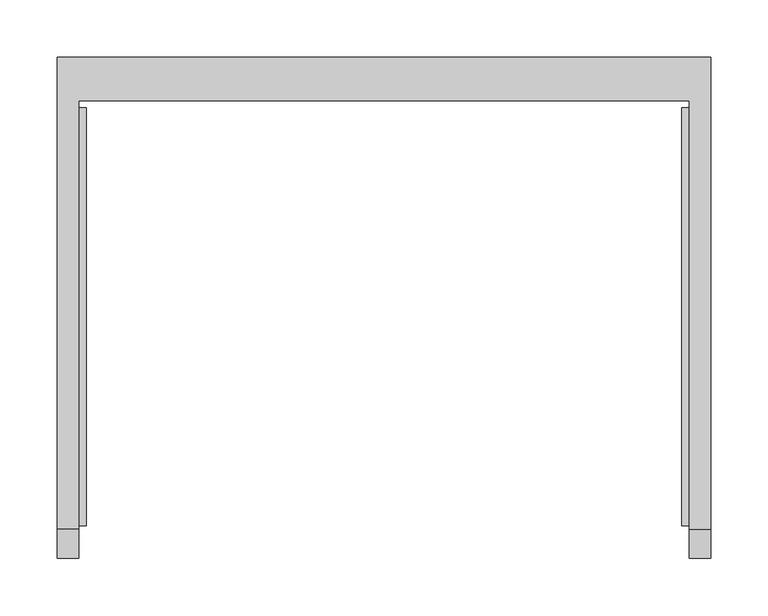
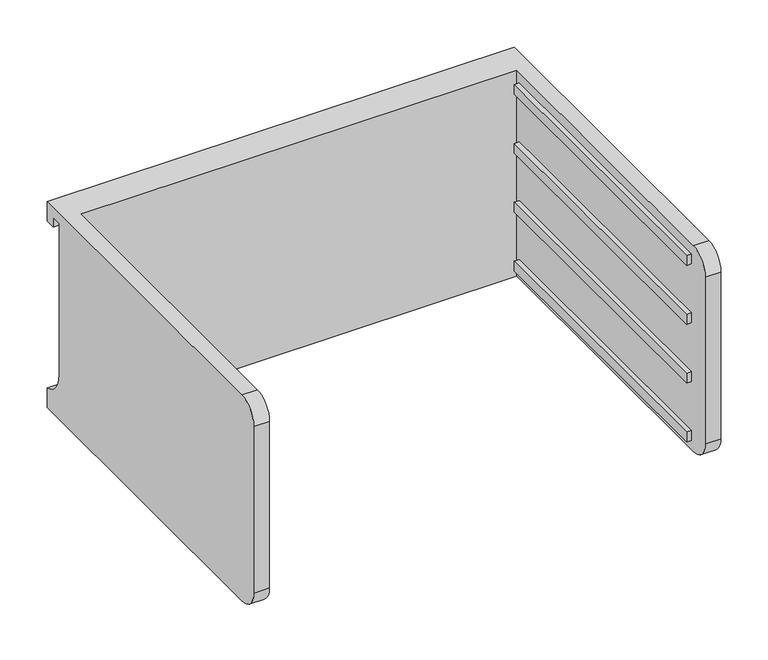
"""IFC4 building model written with IfcOpenShell, lengths in millimetres: furniture geometry."""

from ifc_helpers import new_model, si_unit, frame, origin, place, context, project, spatial, polyline, circle_curve, outline, extrude, source, transform, mapped, element, save
from ifc_brep_helpers import plane_surface, cylinder_surface, revolved_surface, advanced_brep


def furniture_34c58b51(model_context):
    return source(origin(), model_context, "Body", "SolidModel", [
        advanced_brep(
        [(-171.7622951, -331.6523397, 795.3502), (-171.7622951, -357.0523397, 769.9502), (-171.7622951, -357.0523397, 554.0502), (-171.7622951, -331.6523397, 528.6502), (-171.7622951, 43.0421197, 528.6502), (-171.7622951, 43.0421197, 795.3502), (-190.8122951, -331.6523397, 528.6502), (-190.8122951, -357.0523397, 554.0502), (-190.8122951, -357.0523397, 769.9502), (-190.8122951, -331.6523397, 795.3502), (-190.8122951, 81.0976603, 795.3502), (-190.8122951, 81.0976603, 769.9502), (-190.8122951, 68.4421197, 769.9502), (-190.8122951, 68.4421197, 782.6502), (-190.8122951, 55.7421197, 782.6502), (-190.8122951, 55.7421197, 586.59522), (-190.8122951, 81.0976603, 554.0502), (-190.8122951, 81.0976603, 528.6502), (380.6877049, 81.0976603, 528.6502), (380.6877049, -331.6523397, 528.6502), (361.6377049, -331.6523397, 528.6502), (361.6377049, 43.0421197, 528.6502), (361.6377049, 43.0421197, 795.3502), (361.6377049, -331.6523397, 795.3502), (380.6877049, -331.6523397, 795.3502), (380.6877049, 81.0976603, 795.3502), (380.6877049, 81.0976603, 554.0502), (380.6877049, 55.7421197, 586.59522), (380.6877049, 55.7421197, 782.6502), (380.6877049, 68.4421197, 782.6502), (380.6877049, 68.4421197, 769.9502), (380.6877049, 81.0976603, 769.9502), (380.6877049, -357.0523397, 769.9502), (380.6877049, -357.0523397, 554.0502), (361.6377049, -357.0523397, 554.0502), (361.6377049, -357.0523397, 769.9502)],
        [
            (0, 1, circle_curve(frame((-171.7622951, -331.6523397, 769.9502), z_axis=(1.0, 0.0, 0.0), x_axis=(0.0, 0.0, 1.0)), 25.4)),
            (1, 2),
            (2, 3, circle_curve(frame((-171.7622951, -331.6523397, 554.0502), z_axis=(1.0, 0.0, 0.0), x_axis=(0.0, 0.0, 1.0)), 25.4)),
            (3, 4),
            (4, 5),
            (5, 0),
            (6, 7, circle_curve(frame((-190.8122951, -331.6523397, 554.0502), z_axis=(-1.0, 0.0, 0.0), x_axis=(0.0, 0.0, 1.0)), 25.4)),
            (7, 8),
            (8, 9, circle_curve(frame((-190.8122951, -331.6523397, 769.9502), z_axis=(-1.0, 0.0, 0.0), x_axis=(0.0, 0.0, 1.0)), 25.4)),
            (9, 10),
            (10, 11),
            (11, 12),
            (12, 13),
            (13, 14),
            (14, 15),
            (15, 16, circle_curve(frame((-190.8122951, 89.3064162, 586.59522), z_axis=(1.0, 0.0, 0.0), x_axis=(0.0, 0.0, 1.0)), 33.5642965)),
            (16, 17),
            (17, 6),
            (0, 9),
            (8, 1),
            (7, 2),
            (6, 3),
            (17, 18),
            (18, 19),
            (19, 20),
            (20, 21),
            (21, 4),
            (5, 22),
            (22, 23),
            (23, 24),
            (24, 25),
            (25, 10),
            (18, 26),
            (26, 27, circle_curve(frame((380.6877049, 89.3064162, 586.59522), z_axis=(-1.0, 0.0, 0.0), x_axis=(0.0, 0.0, 1.0)), 33.5642965)),
            (27, 28),
            (28, 29),
            (29, 30),
            (30, 31),
            (31, 25),
            (24, 32, circle_curve(frame((380.6877049, -331.6523397, 769.9502), z_axis=(1.0, 0.0, 0.0), x_axis=(0.0, 0.0, 1.0)), 25.4)),
            (32, 33),
            (33, 19, circle_curve(frame((380.6877049, -331.6523397, 554.0502), z_axis=(1.0, 0.0, 0.0), x_axis=(0.0, 0.0, 1.0)), 25.4)),
            (16, 26),
            (15, 27),
            (14, 28),
            (13, 29),
            (12, 30),
            (11, 31),
            (21, 22),
            (20, 34, circle_curve(frame((361.6377049, -331.6523397, 554.0502), z_axis=(-1.0, 0.0, 0.0), x_axis=(0.0, 0.0, 1.0)), 25.4)),
            (34, 35),
            (35, 23, circle_curve(frame((361.6377049, -331.6523397, 769.9502), z_axis=(-1.0, 0.0, 0.0), x_axis=(0.0, 0.0, 1.0)), 25.4)),
            (35, 32),
            (34, 33),
        ],
        [
            plane_surface(frame((-171.7622951, -331.6523397, 795.3502), z_axis=(1.0, 0.0, 0.0), x_axis=(0.0, -1.0, 0.0))),
            plane_surface(frame((-190.8122951, -331.6523397, 795.3502), z_axis=(-1.0, 0.0, 0.0), x_axis=(0.0, 1.0, 0.0))),
            cylinder_surface(frame((-190.8122951, -331.6523397, 769.9502), z_axis=(1.0, 0.0, 0.0), x_axis=(0.0, 0.0, 1.0)), 25.4),
            plane_surface(frame((-171.7622951, -357.0523397, 769.9502), z_axis=(0.0, -1.0, 0.0), x_axis=(-1.0, 0.0, 0.0))),
            cylinder_surface(frame((-190.8122951, -331.6523397, 554.0502), z_axis=(1.0, 0.0, 0.0), x_axis=(0.0, 0.0, 1.0)), 25.4),
            plane_surface(frame((-171.7622951, -331.6523397, 528.6502), z_axis=(0.0, 0.0, -1.0), x_axis=(-1.0, 0.0, 0.0))),
            plane_surface(frame((-171.7622951, 43.0421197, 795.3502), z_axis=(0.0, 0.0, 1.0), x_axis=(-1.0, 0.0, 0.0))),
            plane_surface(frame((380.6877049, 81.0976603, 554.0502), z_axis=(1.0, 0.0, 0.0), x_axis=(0.0, 0.0, 1.0))),
            plane_surface(frame((380.6877049, 81.0976603, 528.6502), z_axis=(0.0, 1.0, 0.0), x_axis=(-1.0, 0.0, 0.0))),
            revolved_surface(polyline([(-190.8122951, 89.3064162, 620.1595165), (380.68770489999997, 89.3064162, 620.1595165)]), (-190.8122951, 89.3064162, 586.59522), (-1.0, 0.0, 0.0)),
            plane_surface(frame((380.6877049, 55.7421197, 586.59522), z_axis=(0.0, 1.0, 0.0), x_axis=(-1.0, 0.0, 0.0))),
            plane_surface(frame((380.6877049, 55.7421197, 782.6502), z_axis=(0.0, 0.0, -1.0), x_axis=(-1.0, 0.0, 0.0))),
            plane_surface(frame((380.6877049, 68.4421197, 782.6502), z_axis=(0.0, -1.0, 0.0), x_axis=(-1.0, 0.0, 0.0))),
            plane_surface(frame((380.6877049, 68.4421197, 769.9502), z_axis=(0.0, 0.0, -1.0), x_axis=(-1.0, 0.0, 0.0))),
            plane_surface(frame((380.6877049, 81.0976603, 769.9502), z_axis=(0.0, 1.0, 0.0), x_axis=(-1.0, 0.0, 0.0))),
            plane_surface(frame((380.6877049, 43.0421197, 795.3502), z_axis=(0.0, -1.0, 0.0), x_axis=(-1.0, 0.0, 0.0))),
            plane_surface(frame((361.6377049, -331.6523397, 795.3502), z_axis=(-1.0, 0.0, 0.0), x_axis=(0.0, 1.0, 0.0))),
            cylinder_surface(frame((361.6377049, -331.6523397, 769.9502), z_axis=(1.0, 0.0, 0.0), x_axis=(0.0, 0.0, 1.0)), 25.4),
            plane_surface(frame((380.6877049, -357.0523397, 769.9502), z_axis=(0.0, -1.0, 0.0), x_axis=(-1.0, 0.0, 0.0))),
            cylinder_surface(frame((361.6377049, -331.6523397, 554.0502), z_axis=(1.0, 0.0, 0.0), x_axis=(0.0, 0.0, 1.0)), 25.4),
        ],
        [
            (0, [[1, 2, 3, 4, 5, 6]]),
            (1, [[7, 8, 9, 10, 11, 12, 13, 14, 15, 16, 17, 18]]),
            (2, [[-1, 19, -9, 20]]),
            (3, [[-2, -20, -8, 21]]),
            (4, [[-3, -21, -7, 22]]),
            (5, [[-4, -22, -18, 23, 24, 25, 26, 27]]),
            (6, [[-6, 28, 29, 30, 31, 32, -10, -19]]),
            (7, [[-24, 33, 34, 35, 36, 37, 38, 39, -31, 40, 41, 42]]),
            (8, [[-33, -23, -17, 43]]),
            (9, [[-34, -43, -16, 44]]),
            (10, [[-35, -44, -15, 45]]),
            (11, [[-36, -45, -14, 46]]),
            (12, [[-37, -46, -13, 47]]),
            (13, [[-38, -47, -12, 48]]),
            (14, [[-39, -48, -11, -32]]),
            (15, [[-5, -27, 49, -28]]),
            (16, [[-29, -49, -26, 50, 51, 52]]),
            (17, [[-40, -30, -52, 53]]),
            (18, [[-41, -53, -51, 54]]),
            (19, [[-42, -54, -50, -25]]),
        ],
    ),
        extrude(outline(polyline([(355.2877049, -328.4773397), (355.2877049, 36.6921197), (361.6377049, 36.6921197), (361.6377049, -328.4773397), (355.2877049, -328.4773397)])), frame((0.0, 0.0, 617.5502), z_axis=(0.0, 0.0, 1.0), x_axis=(1.0, 0.0, 0.0)), (0.0, 0.0, 1.0), 12.7),
        extrude(outline(polyline([(355.2877049, -328.4773397), (355.2877049, 36.6921197), (361.6377049, 36.6921197), (361.6377049, -328.4773397), (355.2877049, -328.4773397)])), frame((0.0, 0.0, 693.7502), z_axis=(0.0, 0.0, 1.0), x_axis=(1.0, 0.0, 0.0)), (0.0, 0.0, 1.0), 12.7),
        extrude(outline(polyline([(355.2877049, -328.4773397), (355.2877049, 36.6921197), (361.6377049, 36.6921197), (361.6377049, -328.4773397), (355.2877049, -328.4773397)])), frame((0.0, 0.0, 769.9502), z_axis=(0.0, 0.0, 1.0), x_axis=(1.0, 0.0, 0.0)), (0.0, 0.0, 1.0), 12.7),
        extrude(outline(polyline([(355.2877049, -328.4773397), (355.2877049, 36.6921197), (361.6377049, 36.6921197), (361.6377049, -328.4773397), (355.2877049, -328.4773397)])), frame((0.0, 0.0, 541.3502), z_axis=(0.0, 0.0, 1.0), x_axis=(1.0, 0.0, 0.0)), (0.0, 0.0, 1.0), 12.7),
        extrude(outline(polyline([(-171.7622951, -328.4773397), (-171.7622951, 36.6921197), (-165.4122951, 36.6921197), (-165.4122951, -328.4773397), (-171.7622951, -328.4773397)])), frame((0.0, 0.0, 617.5502), z_axis=(0.0, 0.0, 1.0), x_axis=(1.0, 0.0, 0.0)), (0.0, 0.0, 1.0), 12.7),
        extrude(outline(polyline([(-171.7622951, -328.4773397), (-171.7622951, 36.6921197), (-165.4122951, 36.6921197), (-165.4122951, -328.4773397), (-171.7622951, -328.4773397)])), frame((0.0, 0.0, 693.7502), z_axis=(0.0, 0.0, 1.0), x_axis=(1.0, 0.0, 0.0)), (0.0, 0.0, 1.0), 12.7),
        extrude(outline(polyline([(-171.7622951, -328.4773397), (-171.7622951, 36.6921197), (-165.4122951, 36.6921197), (-165.4122951, -328.4773397), (-171.7622951, -328.4773397)])), frame((0.0, 0.0, 769.9502), z_axis=(0.0, 0.0, 1.0), x_axis=(1.0, 0.0, 0.0)), (0.0, 0.0, 1.0), 12.7),
        extrude(outline(polyline([(-171.7622951, -328.4773397), (-171.7622951, 36.6921197), (-165.4122951, 36.6921197), (-165.4122951, -328.4773397), (-171.7622951, -328.4773397)])), frame((0.0, 0.0, 541.3502), z_axis=(0.0, 0.0, 1.0), x_axis=(1.0, 0.0, 0.0)), (0.0, 0.0, 1.0), 12.7),
    ])


if __name__ == "__main__":
    model = new_model("IFC4")
    model_context = context("Model", 3, world=origin())
    ifc_project = project(units=[si_unit("LENGTHUNIT", "METRE", prefix="MILLI")], contexts=[model_context])
    site = spatial("IfcSite", under=ifc_project)
    building = spatial("IfcBuilding", under=site)
    placement = place(None, origin())
    furniture_shape = furniture_34c58b51(model_context)
    element("IfcFurniture", 1, ObjectType="HermanMiller_CoStruc_CO205_CFrame : 10\"H x 17\"D x 22\"W", at=placement, inside=building, context=model_context, shape_type="MappedRepresentation", body=[
        mapped(furniture_shape, transform((0.0, 0.0, 0.0), x_axis=(1.0, 0.0, 0.0), y_axis=(0.0, 1.0, 0.0), z_axis=(0.0, 0.0, 1.0))),
    ])
    save(model, "model.ifc")
